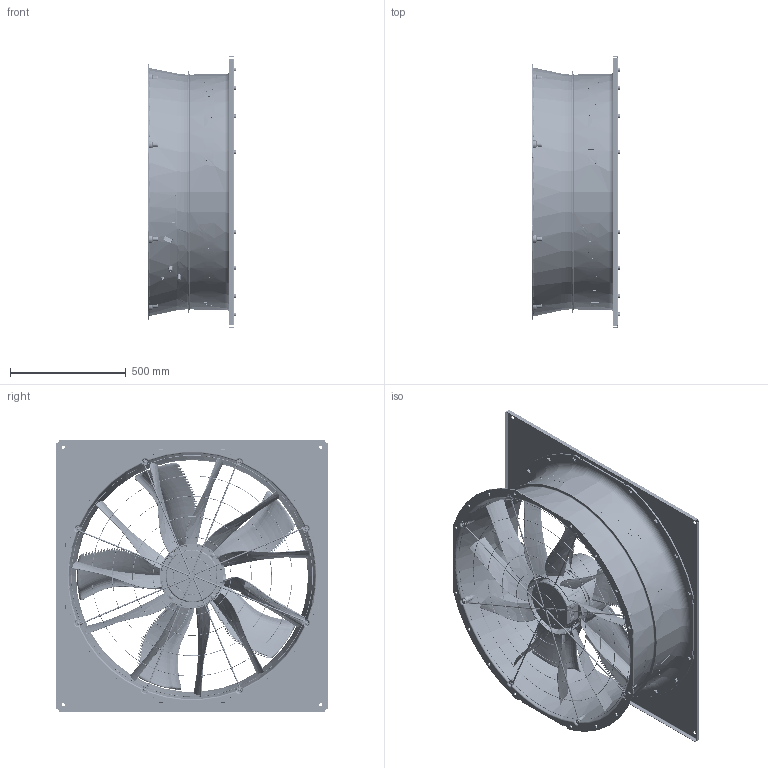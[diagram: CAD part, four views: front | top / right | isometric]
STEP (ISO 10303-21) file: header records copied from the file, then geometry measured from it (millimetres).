
FILE_DESCRIPTION((''),'2;1');
FILE_NAME('19100-QG07-06-03','2019-10-02T',('sassi'),(''),'CREO PARAMETRIC BY PTC INC, 2018070','CREO PARAMETRIC BY PTC INC, 2018070','');
FILE_SCHEMA(('AUTOMOTIVE_DESIGN { 1 0 10303 214 1 1 1 1 }'));
Length unit declared in the file: millimetre
Products named in the file (1): 19100-QG07-06-03
Bounding box: 382 x 1170 x 1170 mm (x, y, z)
Volume: 27152667.1 mm3; surface area: 6495396 mm2
Topology: 1 solids, 1 shells, 7432 faces, 19556 edges, 12242 vertices
Faces by surface type: plane 2750, bspline 2075, cylinder 945, cone 581, torus 533, extrusion 401, sphere 147
Entity records: 446737 total; most frequent: CARTESIAN_POINT 261760, ORIENTED_EDGE 38942, DIRECTION 27213, EDGE_CURVE 19471, VERTEX_POINT 12242, AXIS2_PLACEMENT_3D 9452, VECTOR 8309, LINE 7908
